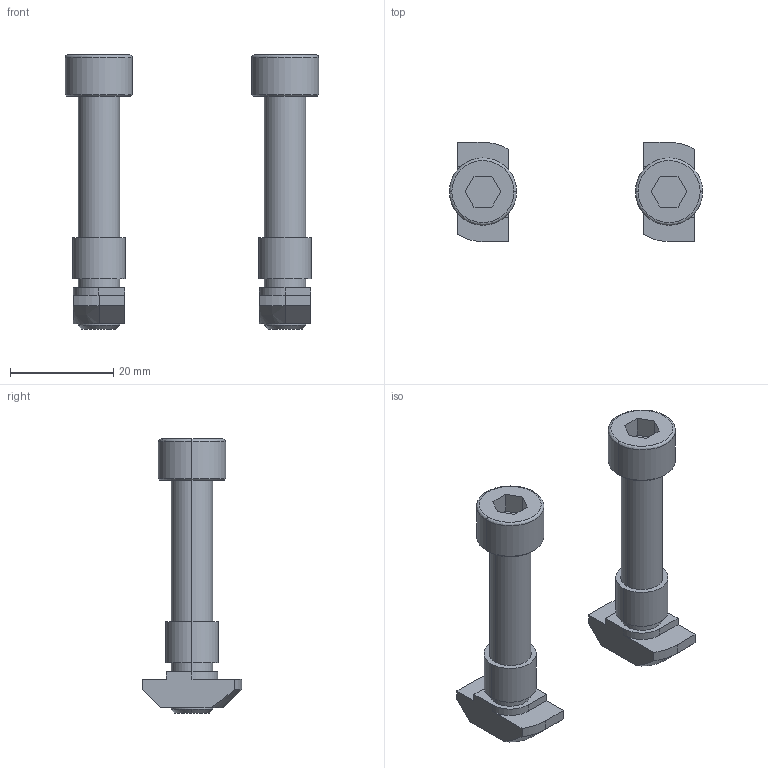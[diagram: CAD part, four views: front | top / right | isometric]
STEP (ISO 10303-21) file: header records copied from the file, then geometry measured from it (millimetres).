
FILE_DESCRIPTION (( 'STEP AP203' ), '1' );
FILE_NAME ('75000003_ASP-490.STEP', '2017-02-07T15:46:49', ( '' ), ( '' ), 'SwSTEP 2.0', 'SolidWorks 2015', '' );
FILE_SCHEMA (( 'CONFIG_CONTROL_DESIGN' ));
Length unit declared in the file: millimetre
Products named in the file (1): 75000003_ASP-490
Bounding box: 49 x 19.2 x 53 mm (x, y, z)
Volume: 8173.6 mm3; surface area: 5364.9 mm2
Topology: 2 solids, 2 shells, 96 faces, 224 edges, 144 vertices
Faces by surface type: plane 48, cylinder 32, cone 12, bspline 4
Entity records: 3103 total; most frequent: CARTESIAN_POINT 805, DIRECTION 466, ORIENTED_EDGE 448, EDGE_CURVE 224, AXIS2_PLACEMENT_3D 165, VERTEX_POINT 144, LINE 136, VECTOR 136
